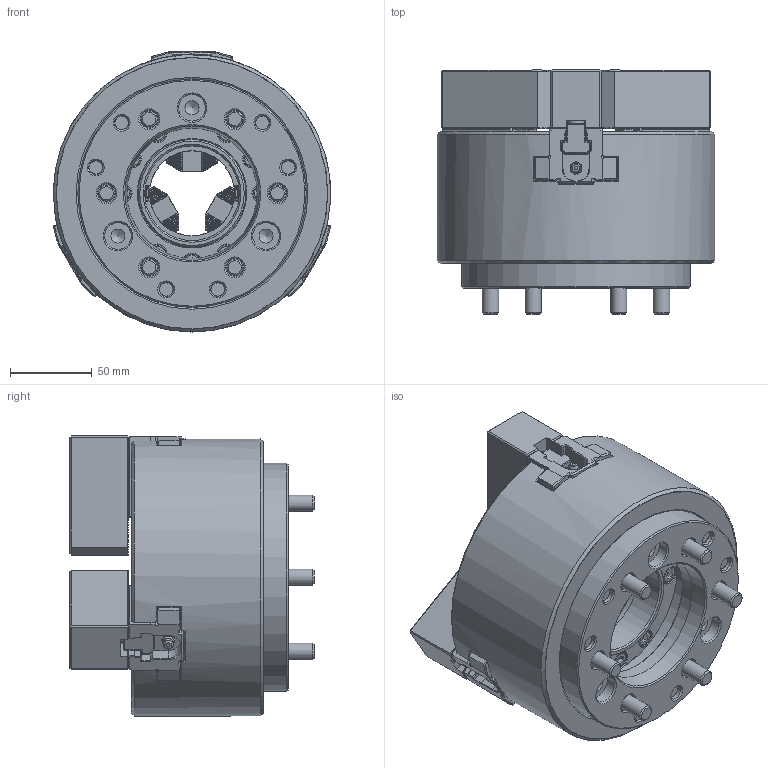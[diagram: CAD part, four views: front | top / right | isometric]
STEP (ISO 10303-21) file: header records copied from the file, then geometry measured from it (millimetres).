
FILE_DESCRIPTION(/* description */ (''),/* implementation_level */ '2;1');
FILE_NAME(/* name */ '\\Itserver\個人資料夾\柯玫如\8.網頁3D討論\1.中空油壓系列\1-1中空油壓夾頭\OPB系列\OPB-206\OPB-206-A5.stp',/* time_stamp */ '2024-11-18T14:14:02+08:00',/* author */ ('034'),/* organization */ (''),/* preprocessor_version */ 'ST-DEVELOPER v16.13',/* originating_system */ 'Autodesk Inventor 2018',/* authorisation */ '');
FILE_SCHEMA (('AUTOMOTIVE_DESIGN { 1 0 10303 214 3 1 1 }'));
Products named in the file (1): OPB-206-A5
Bounding box: 170.02 x 149.54 x 171.56 mm (x, y, z)
Volume: 1867405.2 mm3; surface area: 277701.6 mm2
Topology: 1 solids, 23 shells, 5347 faces, 16540 edges, 10650 vertices
Faces by surface type: plane 3404, cylinder 1095, bspline 551, cone 215, torus 67, sphere 15
Full cylindrical faces by diameter (mm): 5 x3, 5.5 x3, 6 x3, 6.8 x6, 8.6 x12, 9.5 x3, 10 x30, 11 x21, 12 x6, 16 x18, 16.3 x3, 17 x12, 18 x6, 52 x1, 55.5 x1, 56 x1, 56.2 x1, 56.687 x1, 58 x1, 60.5 x1, 60.918 x1, 66 x1, 79.8 x1, 97.7 x1, 98 x1, 105.007 x1, 140 x2, 141 x1, 170 x1
Entity records: 182201 total; most frequent: CARTESIAN_POINT 38748, ORIENTED_EDGE 31978, DIRECTION 27225, EDGE_CURVE 15989, LINE 11517, VECTOR 11517, VERTEX_POINT 10472, AXIS2_PLACEMENT_3D 7854
